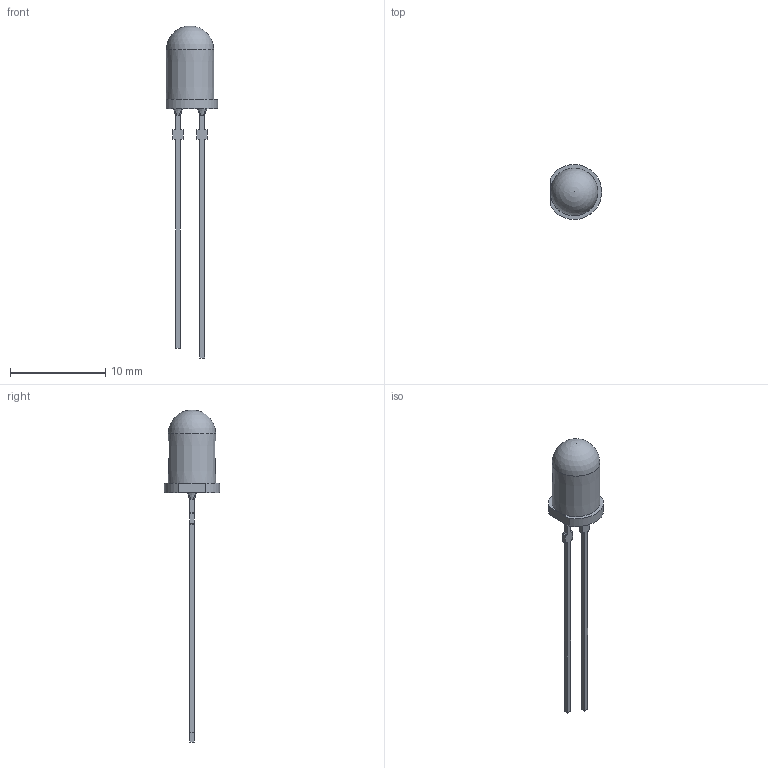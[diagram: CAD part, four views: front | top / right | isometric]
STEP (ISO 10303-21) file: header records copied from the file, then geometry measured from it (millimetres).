
FILE_DESCRIPTION(/* description */ ('LED-CASE %%c5mm'),/* implementation_level */ '2;1');
FILE_NAME(/* name */ 'C:\Users\mmangarudov\OneDrive - Vishay Intertechnology, Inc\Visibles\TLHx52_6.544-5258.1.stp',/* time_stamp */ '2023-10-25T09:29:25+02:00',/* author */ ('mmangarudov'),/* organization */ (''),/* preprocessor_version */ 'ST-DEVELOPER v18.1',/* originating_system */ 'Autodesk Inventor 2022',/* authorisation */ '');
FILE_SCHEMA (('AUTOMOTIVE_DESIGN { 1 0 10303 214 3 1 1 }'));
Length unit declared in the file: millimetre
Products named in the file (1): 6.544-5258.1
Bounding box: 5.4 x 5.8 x 34.9 mm (x, y, z)
Volume: 173.7 mm3; surface area: 276.4 mm2
Topology: 1 solids, 1 shells, 56 faces, 158 edges, 97 vertices
Faces by surface type: plane 29, bspline 16, cylinder 9, sphere 1, cone 1
Entity records: 2329 total; most frequent: CARTESIAN_POINT 997, ORIENTED_EDGE 298, DIRECTION 214, EDGE_CURVE 149, VERTEX_POINT 97, LINE 86, VECTOR 86, AXIS2_PLACEMENT_3D 64
